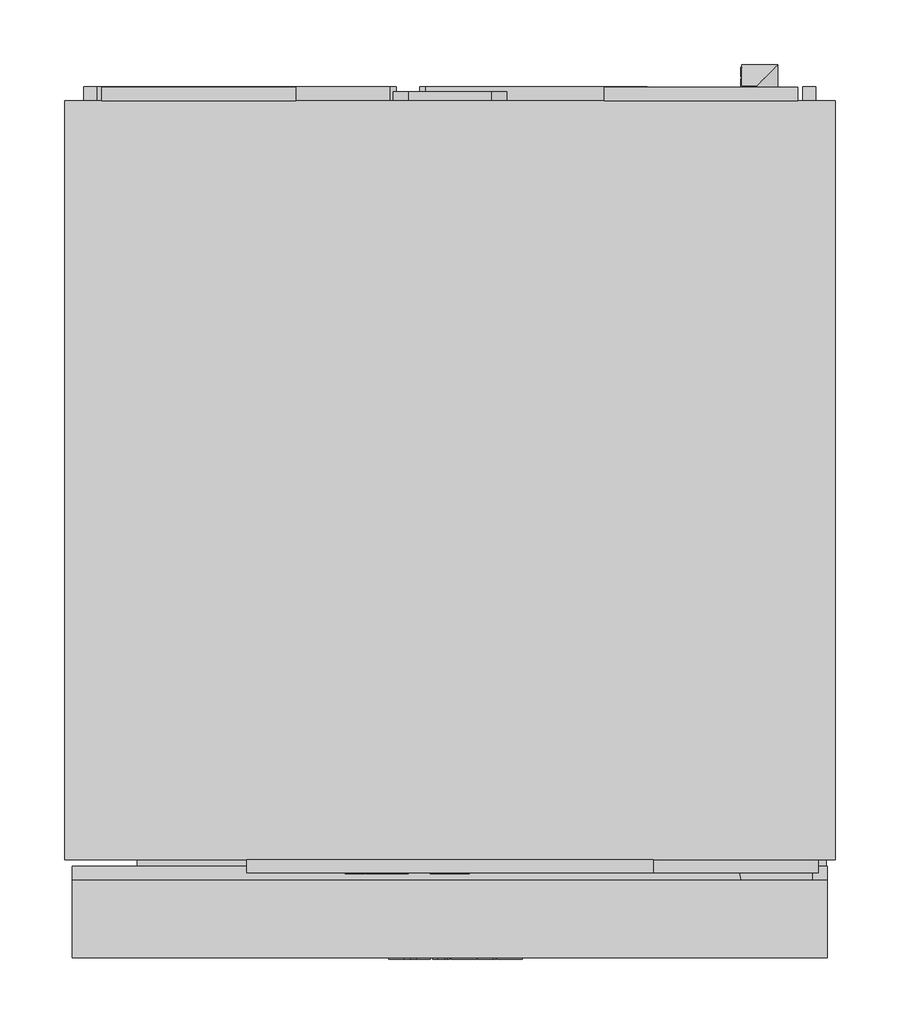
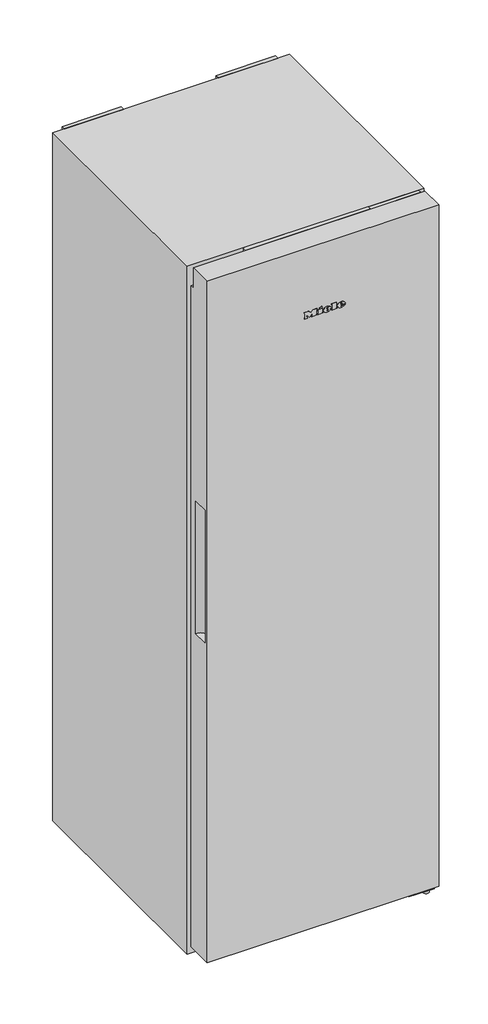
# Not in any storey: 1 proxy.
"""IFC4 building model written with IfcOpenShell, lengths in millimetres."""

from ifc_helpers import new_model, si_unit, origin, place, context, project, spatial, transform, mapped, element, save
from components import specialty_equipment_c9f19f57

model = new_model("IFC4")

# Units and contexts
model_context = context("Model", 3, world=origin())
ifc_project = project(units=[si_unit("LENGTHUNIT", "METRE", prefix="MILLI")], contexts=[model_context])

# Site, building
site = spatial("IfcSite", under=ifc_project)
building = spatial("IfcBuilding", under=site)

# Proxy
placement = place(None, origin())
specialty_equipment_shape = specialty_equipment_c9f19f57(model_context)
element("IfcBuildingElementProxy", 1, Name="12112950_ROK_KS4383ED_EDTCS : 36438350_ROK_12112950_KS4383ED_EDTCS", ObjectType="12112950_ROK_KS4383ED_EDTCS : 36438350_ROK_12112950_KS4383ED_EDTCS", at=placement, inside=building, context=model_context, shape_type="MappedRepresentation", body=[
    mapped(specialty_equipment_shape, transform((0.0, 0.0, 0.0), x_axis=(1.0, 0.0, 0.0), y_axis=(0.0, 1.0, 0.0), z_axis=(0.0, 0.0, 1.0))),
])

save(model, "model.ifc")
